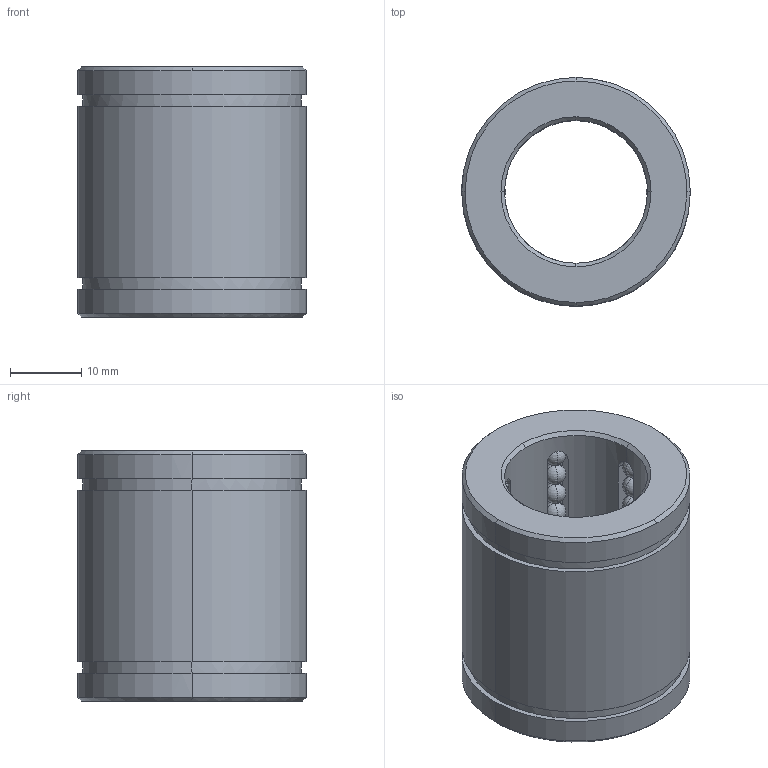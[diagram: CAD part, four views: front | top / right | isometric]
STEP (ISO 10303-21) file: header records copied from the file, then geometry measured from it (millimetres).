
FILE_DESCRIPTION(('CATIA V5 STEP Exchange'),'2;1');
FILE_NAME('C:\Users\Raffaele\Desktop\3D BOLEX\3D FILES CF BOLEX\3-BUSH REF 803\B8032035.stp','2019-06-19T14:10:02+00:00',('none'),('none'),'CATIA Version 5 Release 20 GA (IN-10)','CATIA V5 STEP AP203','none');
FILE_SCHEMA(('CONFIG_CONTROL_DESIGN'));
Length unit declared in the file: millimetre
Products named in the file (1): B8032035
Bounding box: 32 x 32 x 35 mm (x, y, z)
Volume: 16181.9 mm3; surface area: 9477.2 mm2
Topology: 55 solids, 55 shells, 280 faces, 802 edges, 208 vertices
Faces by surface type: sphere 216, plane 24, cylinder 24, cone 16
Entity records: 5808 total; most frequent: CARTESIAN_POINT 1315, DIRECTION 894, ORIENTED_EDGE 740, AXIS2_PLACEMENT_3D 537, EDGE_CURVE 370, EDGE_LOOP 290, ADVANCED_FACE 280, FACE_OUTER_BOUND 280
